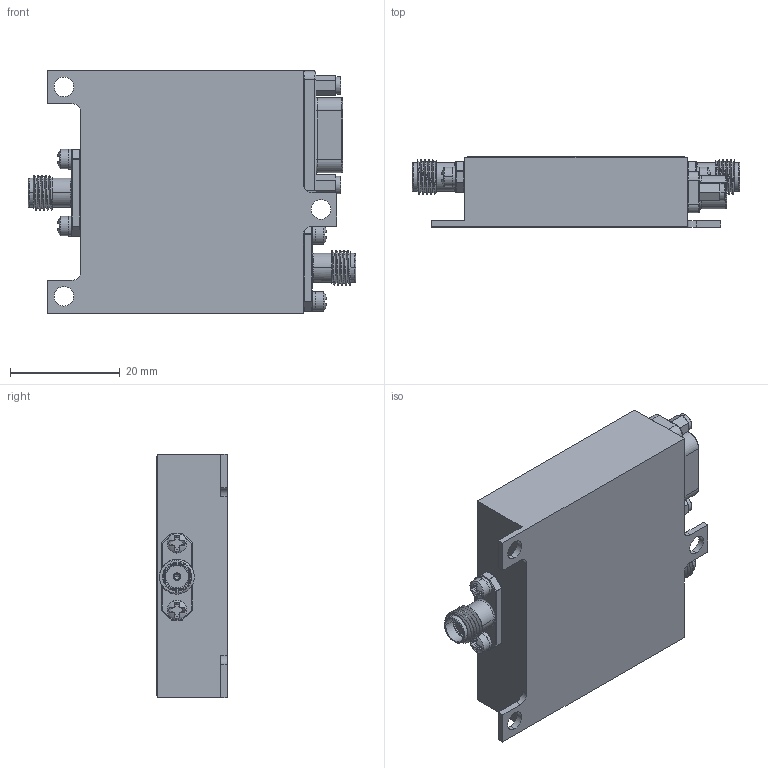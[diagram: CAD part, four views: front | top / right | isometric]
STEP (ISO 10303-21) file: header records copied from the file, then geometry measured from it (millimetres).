
FILE_DESCRIPTION (( 'STEP AP214' ), '1' );
FILE_NAME ('PS-360-DC-3 OPTION 618-15D-10BIT.STEP', '2023-10-23T14:13:20', ( '' ), ( '' ), 'SwSTEP 2.0', 'SolidWorks 2023', '' );
FILE_SCHEMA (( 'AUTOMOTIVE_DESIGN' ));
Length unit declared in the file: inch
Products named in the file (1): PS-360-DC-3 OPTION 618-15D-10BIT
Bounding box: 59.69 x 12.8 x 44.45 mm (x, y, z)
Volume: 24950.6 mm3; surface area: 12354.8 mm2
Topology: 17 solids, 19 shells, 1292 faces, 4492 edges, 3430 vertices
Faces by surface type: plane 507, cylinder 454, cone 113, torus 110, bspline 68, sphere 40
Entity records: 84555 total; most frequent: CARTESIAN_POINT 29917, ORIENTED_EDGE 8828, DIRECTION 6568, EDGE_CURVE 4414, VERTEX_POINT 3430, AXIS2_PLACEMENT_3D 2295, LINE 1978, VECTOR 1978
